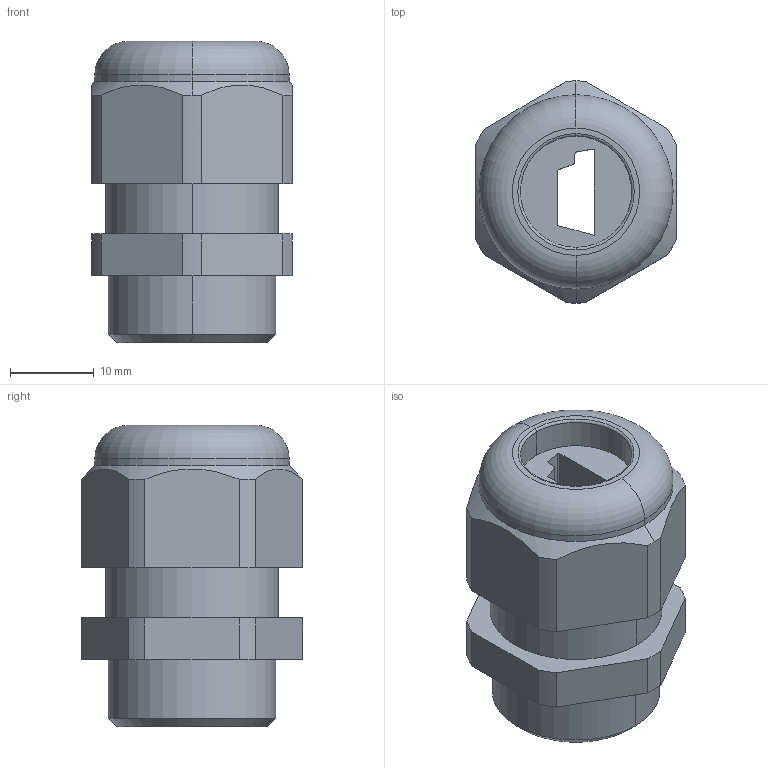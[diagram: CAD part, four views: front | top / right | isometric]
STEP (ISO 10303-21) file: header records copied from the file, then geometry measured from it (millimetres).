
FILE_DESCRIPTION (( 'STEP AP203' ), '1' );
FILE_NAME ('50.620PA7001ASI1.STEP', '2006-04-20T11:23:17', ( ' ' ), ( '' ), 'SwSTEP 2.0', 'SolidWorks 2005278', '' );
FILE_SCHEMA (( 'CONFIG_CONTROL_DESIGN' ));
Length unit declared in the file: millimetre
Products named in the file (1): 50.620PA7001ASI1
Bounding box: 24 x 26.5 x 36 mm (x, y, z)
Volume: 10336 mm3; surface area: 5051.7 mm2
Topology: 1 solids, 1 shells, 98 faces, 253 edges, 165 vertices
Faces by surface type: plane 62, cylinder 26, torus 6, cone 4
Entity records: 3127 total; most frequent: CARTESIAN_POINT 599, DIRECTION 512, ORIENTED_EDGE 506, EDGE_CURVE 253, VECTOR 180, LINE 180, AXIS2_PLACEMENT_3D 166, VERTEX_POINT 165
